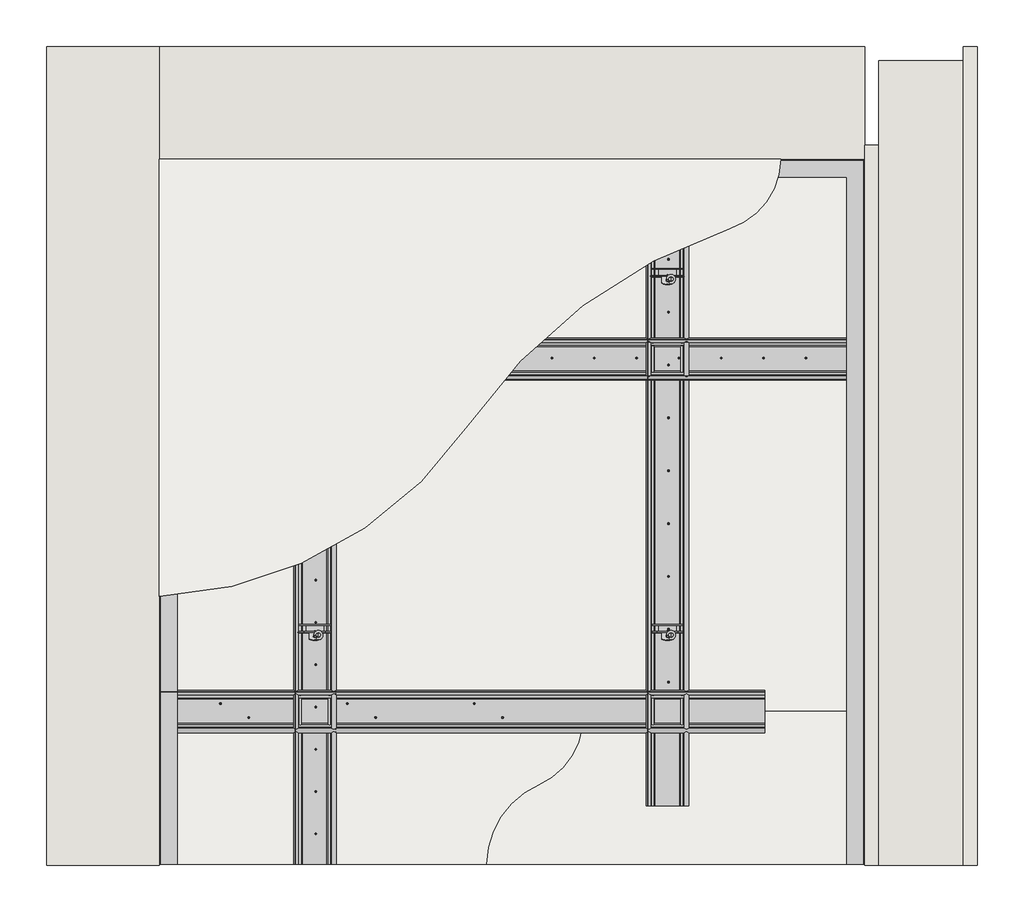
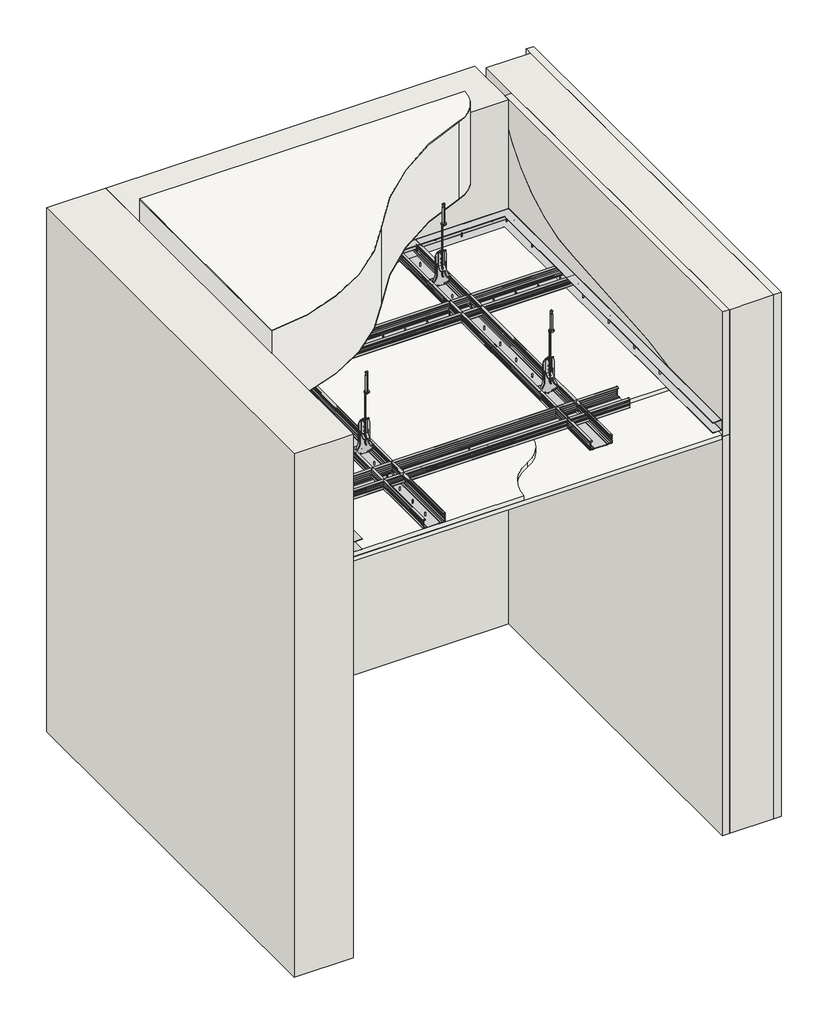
# One storey, incomplete: 106 proxies, 3 walls, 2 coverings, 1 slab.
"""IFC4 building model written with IfcOpenShell, lengths in millimetres."""

from ifc_helpers import new_model, si_unit, point, frame, frame_2d, origin, place, context, project, spatial, polyline, circle_curve, trimmed, segment, composite_curve, outline, extrude, faceted_brep, transform, mapped, element, save
from ifc_brep_helpers import plane_surface, cylinder_surface, revolved_surface, advanced_brep
from components import generic_models_b2d7e38e, generic_models_9a0dee0d, generic_models_a31c8bdf, generic_models_b85798e0, generic_models_5f2788f5, generic_models_cbb1e458, generic_models_cbf350fd, generic_models_0df9e60e

model = new_model("IFC4")

# Units and contexts
model_context = context("Model", 3, world=origin())
ifc_project = project(units=[si_unit("LENGTHUNIT", "METRE", prefix="MILLI")], contexts=[model_context])

# Site, building, storey
site = spatial("IfcSite", under=ifc_project)
building = spatial("IfcBuilding", under=site)
storey = spatial("IfcBuildingStorey", under=building, Name="Уровень 1", Elevation=0.0)

# Proxies
placement = place(None, origin())
generic_models_shape = generic_models_b2d7e38e(model_context)
element("IfcBuildingElementProxy", 1, Name="Дюбель в бетон : Дюбель в бетон", ObjectType="Дюбель в бетон : Дюбель в бетон", at=placement, inside=storey, context=model_context, shape_type="MappedRepresentation", body=[
    mapped(generic_models_shape, transform((8709.8041678, 306.5812197, -156.5537152), x_axis=(0.0, -1.0, 0.0), y_axis=(1.0, 0.0, 0.0), z_axis=(0.0, 0.0, 1.0))),
])
element("IfcBuildingElementProxy", 2, Name="Дюбель в бетон : Дюбель в бетон", ObjectType="Дюбель в бетон : Дюбель в бетон", at=placement, inside=storey, context=model_context, shape_type="MappedRepresentation", body=[
    mapped(generic_models_shape, transform((8709.8041678, 811.5812197, -156.5537152), x_axis=(0.0, -1.0, 0.0), y_axis=(1.0, 0.0, 0.0), z_axis=(0.0, 0.0, 1.0))),
])
element("IfcBuildingElementProxy", 3, Name="Дюбель в бетон : Дюбель в бетон", ObjectType="Дюбель в бетон : Дюбель в бетон", at=placement, inside=storey, context=model_context, shape_type="MappedRepresentation", body=[
    mapped(generic_models_shape, transform((8209.8041678, 306.5812197, -156.5537152), x_axis=(0.0, -1.0, 0.0), y_axis=(1.0, 0.0, 0.0), z_axis=(0.0, 0.0, 1.0))),
])
element("IfcBuildingElementProxy", 4, Name="Дюбель в бетон : Дюбель в бетон", ObjectType="Дюбель в бетон : Дюбель в бетон", at=placement, inside=storey, context=model_context, shape_type="MappedRepresentation", body=[
    mapped(generic_models_shape, transform((8209.8041678, 811.5812197, -156.5537152), x_axis=(0.0, -1.0, 0.0), y_axis=(1.0, 0.0, 0.0), z_axis=(0.0, 0.0, 1.0))),
])
element("IfcBuildingElementProxy", 5, Name="Дюбель в бетон : Дюбель в бетон", ObjectType="Дюбель в бетон : Дюбель в бетон", at=placement, inside=storey, context=model_context, shape_type="MappedRepresentation", body=[
    mapped(generic_models_shape, transform((7985.3446892, -3.5447657, -324.751913), x_axis=(0.0, 1.0, 0.0), y_axis=(0.0, 0.0, -1.0), z_axis=(-1.0, 0.0, 0.0))),
])
element("IfcBuildingElementProxy", 6, Name="Дюбель в бетон : Дюбель в бетон", ObjectType="Дюбель в бетон : Дюбель в бетон", at=placement, inside=storey, context=model_context, shape_type="MappedRepresentation", body=[
    mapped(generic_models_shape, transform((7985.3446892, 146.4552343, -324.751913), x_axis=(0.0, 1.0, 0.0), y_axis=(0.0, 0.0, -1.0), z_axis=(-1.0, 0.0, 0.0))),
])
element("IfcBuildingElementProxy", 7, Name="Дюбель в бетон : Дюбель в бетон", ObjectType="Дюбель в бетон : Дюбель в бетон", at=placement, inside=storey, context=model_context, shape_type="MappedRepresentation", body=[
    mapped(generic_models_shape, transform((7985.3446892, 296.4552343, -324.751913), x_axis=(0.0, 1.0, 0.0), y_axis=(0.0, 0.0, -1.0), z_axis=(-1.0, 0.0, 0.0))),
])
element("IfcBuildingElementProxy", 8, Name="Дюбель в бетон : Дюбель в бетон", ObjectType="Дюбель в бетон : Дюбель в бетон", at=placement, inside=storey, context=model_context, shape_type="MappedRepresentation", body=[
    mapped(generic_models_shape, transform((7985.3446892, 446.4552343, -324.751913), x_axis=(0.0, 1.0, 0.0), y_axis=(0.0, 0.0, -1.0), z_axis=(-1.0, 0.0, 0.0))),
])
element("IfcBuildingElementProxy", 9, Name="Дюбель в бетон : Дюбель в бетон", ObjectType="Дюбель в бетон : Дюбель в бетон", at=placement, inside=storey, context=model_context, shape_type="MappedRepresentation", body=[
    mapped(generic_models_shape, transform((7985.3446892, 596.4552343, -324.751913), x_axis=(0.0, 1.0, 0.0), y_axis=(0.0, 0.0, -1.0), z_axis=(-1.0, 0.0, 0.0))),
])
element("IfcBuildingElementProxy", 10, Name="Дюбель в бетон : Дюбель в бетон", ObjectType="Дюбель в бетон : Дюбель в бетон", at=placement, inside=storey, context=model_context, shape_type="MappedRepresentation", body=[
    mapped(generic_models_shape, transform((7985.3446892, 746.4552343, -324.751913), x_axis=(0.0, 1.0, 0.0), y_axis=(0.0, 0.0, -1.0), z_axis=(-1.0, 0.0, 0.0))),
])
element("IfcBuildingElementProxy", 11, Name="Дюбель в бетон : Дюбель в бетон", ObjectType="Дюбель в бетон : Дюбель в бетон", at=placement, inside=storey, context=model_context, shape_type="MappedRepresentation", body=[
    mapped(generic_models_shape, transform((7985.3446892, 896.4552343, -324.751913), x_axis=(0.0, 1.0, 0.0), y_axis=(0.0, 0.0, -1.0), z_axis=(-1.0, 0.0, 0.0))),
])
element("IfcBuildingElementProxy", 12, Name="Дюбель в бетон : Дюбель в бетон", ObjectType="Дюбель в бетон : Дюбель в бетон", at=placement, inside=storey, context=model_context, shape_type="MappedRepresentation", body=[
    mapped(generic_models_shape, transform((8014.3446892, 980.4552343, -325.4208591), x_axis=(1.0, 0.0, 0.0), y_axis=(0.0, 0.0, -1.0), z_axis=(0.0, 1.0, 0.0))),
])
element("IfcBuildingElementProxy", 13, Name="Дюбель в бетон : Дюбель в бетон", ObjectType="Дюбель в бетон : Дюбель в бетон", at=placement, inside=storey, context=model_context, shape_type="MappedRepresentation", body=[
    mapped(generic_models_shape, transform((8168.5113559, 980.4552343, -325.4208591), x_axis=(1.0, 0.0, 0.0), y_axis=(0.0, 0.0, -1.0), z_axis=(0.0, 1.0, 0.0))),
])
element("IfcBuildingElementProxy", 14, Name="Дюбель в бетон : Дюбель в бетон", ObjectType="Дюбель в бетон : Дюбель в бетон", at=placement, inside=storey, context=model_context, shape_type="MappedRepresentation", body=[
    mapped(generic_models_shape, transform((8322.6780226, 980.4552343, -325.4208591), x_axis=(1.0, 0.0, 0.0), y_axis=(0.0, 0.0, -1.0), z_axis=(0.0, 1.0, 0.0))),
])
element("IfcBuildingElementProxy", 15, Name="Дюбель в бетон : Дюбель в бетон", ObjectType="Дюбель в бетон : Дюбель в бетон", at=placement, inside=storey, context=model_context, shape_type="MappedRepresentation", body=[
    mapped(generic_models_shape, transform((8476.8446892, 980.4552343, -325.4208591), x_axis=(1.0, 0.0, 0.0), y_axis=(0.0, 0.0, -1.0), z_axis=(0.0, 1.0, 0.0))),
])
element("IfcBuildingElementProxy", 16, Name="Дюбель в бетон : Дюбель в бетон", ObjectType="Дюбель в бетон : Дюбель в бетон", at=placement, inside=storey, context=model_context, shape_type="MappedRepresentation", body=[
    mapped(generic_models_shape, transform((8631.0113559, 980.4552343, -325.4208591), x_axis=(1.0, 0.0, 0.0), y_axis=(0.0, 0.0, -1.0), z_axis=(0.0, 1.0, 0.0))),
])
element("IfcBuildingElementProxy", 17, Name="Дюбель в бетон : Дюбель в бетон", ObjectType="Дюбель в бетон : Дюбель в бетон", at=placement, inside=storey, context=model_context, shape_type="MappedRepresentation", body=[
    mapped(generic_models_shape, transform((8785.1780226, 980.4552343, -325.4208591), x_axis=(1.0, 0.0, 0.0), y_axis=(0.0, 0.0, -1.0), z_axis=(0.0, 1.0, 0.0))),
])
element("IfcBuildingElementProxy", 18, Name="Дюбель в бетон : Дюбель в бетон", ObjectType="Дюбель в бетон : Дюбель в бетон", at=placement, inside=storey, context=model_context, shape_type="MappedRepresentation", body=[
    mapped(generic_models_shape, transform((8939.3446892, 980.4552343, -325.4208591), x_axis=(1.0, 0.0, 0.0), y_axis=(0.0, 0.0, -1.0), z_axis=(0.0, 1.0, 0.0))),
])
element("IfcBuildingElementProxy", 19, Name="Дюбель в бетон : Дюбель в бетон", ObjectType="Дюбель в бетон : Дюбель в бетон", at=placement, inside=storey, context=model_context, shape_type="MappedRepresentation", body=[
    mapped(generic_models_shape, transform((8983.3446892, 950.0, -325.018471), x_axis=(0.0, -1.0, 0.0), y_axis=(0.0, 0.0, -1.0), z_axis=(1.0, 0.0, 0.0))),
])
element("IfcBuildingElementProxy", 20, Name="Дюбель в бетон : Дюбель в бетон", ObjectType="Дюбель в бетон : Дюбель в бетон", at=placement, inside=storey, context=model_context, shape_type="MappedRepresentation", body=[
    mapped(generic_models_shape, transform((8983.3446892, 800.0, -325.018471), x_axis=(0.0, -1.0, 0.0), y_axis=(0.0, 0.0, -1.0), z_axis=(1.0, 0.0, 0.0))),
])
element("IfcBuildingElementProxy", 21, Name="Дюбель в бетон : Дюбель в бетон", ObjectType="Дюбель в бетон : Дюбель в бетон", at=placement, inside=storey, context=model_context, shape_type="MappedRepresentation", body=[
    mapped(generic_models_shape, transform((8983.3446892, 650.0, -325.018471), x_axis=(0.0, -1.0, 0.0), y_axis=(0.0, 0.0, -1.0), z_axis=(1.0, 0.0, 0.0))),
])
element("IfcBuildingElementProxy", 22, Name="Дюбель в бетон : Дюбель в бетон", ObjectType="Дюбель в бетон : Дюбель в бетон", at=placement, inside=storey, context=model_context, shape_type="MappedRepresentation", body=[
    mapped(generic_models_shape, transform((8983.3446892, 500.0, -325.018471), x_axis=(0.0, -1.0, 0.0), y_axis=(0.0, 0.0, -1.0), z_axis=(1.0, 0.0, 0.0))),
])
element("IfcBuildingElementProxy", 23, Name="Дюбель в бетон : Дюбель в бетон", ObjectType="Дюбель в бетон : Дюбель в бетон", at=placement, inside=storey, context=model_context, shape_type="MappedRepresentation", body=[
    mapped(generic_models_shape, transform((8983.3446892, 350.0, -325.018471), x_axis=(0.0, -1.0, 0.0), y_axis=(0.0, 0.0, -1.0), z_axis=(1.0, 0.0, 0.0))),
])
element("IfcBuildingElementProxy", 24, Name="Дюбель в бетон : Дюбель в бетон", ObjectType="Дюбель в бетон : Дюбель в бетон", at=placement, inside=storey, context=model_context, shape_type="MappedRepresentation", body=[
    mapped(generic_models_shape, transform((8983.3446892, 200.0, -325.018471), x_axis=(0.0, -1.0, 0.0), y_axis=(0.0, 0.0, -1.0), z_axis=(1.0, 0.0, 0.0))),
])
element("IfcBuildingElementProxy", 25, Name="Дюбель в бетон : Дюбель в бетон", ObjectType="Дюбель в бетон : Дюбель в бетон", at=placement, inside=storey, context=model_context, shape_type="MappedRepresentation", body=[
    mapped(generic_models_shape, transform((8983.3446892, 50.0, -325.018471), x_axis=(0.0, -1.0, 0.0), y_axis=(0.0, 0.0, -1.0), z_axis=(1.0, 0.0, 0.0))),
])
generic_models_2_shape = generic_models_9a0dee0d(model_context)
element("IfcBuildingElementProxy", 26, Name="Винт самонарезающийся : Винт самонарезающийся", ObjectType="Винт самонарезающийся : Винт самонарезающийся", at=placement, inside=storey, context=model_context, shape_type="MappedRepresentation", body=[
    mapped(generic_models_2_shape, transform((8471.043806, 189.4989085, -352.576), x_axis=(-1.0, 0.0, 0.0), y_axis=(0.0, -1.0, 0.0), z_axis=(0.0, 0.0, 1.0))),
])
element("IfcBuildingElementProxy", 27, Name="Винт самонарезающийся : Винт самонарезающийся", ObjectType="Винт самонарезающийся : Винт самонарезающийся", at=placement, inside=storey, context=model_context, shape_type="MappedRepresentation", body=[
    mapped(generic_models_2_shape, transform((8430.843806, 209.2989085, -352.576), x_axis=(-1.0, 0.0, 0.0), y_axis=(0.0, -1.0, 0.0), z_axis=(0.0, 0.0, 1.0))),
])
element("IfcBuildingElementProxy", 28, Name="Винт самонарезающийся : Винт самонарезающийся", ObjectType="Винт самонарезающийся : Винт самонарезающийся", at=placement, inside=storey, context=model_context, shape_type="MappedRepresentation", body=[
    mapped(generic_models_2_shape, transform((8291.043806, 189.4989085, -352.576), x_axis=(-1.0, 0.0, 0.0), y_axis=(0.0, -1.0, 0.0), z_axis=(0.0, 0.0, 1.0))),
])
element("IfcBuildingElementProxy", 29, Name="Винт самонарезающийся : Винт самонарезающийся", ObjectType="Винт самонарезающийся : Винт самонарезающийся", at=placement, inside=storey, context=model_context, shape_type="MappedRepresentation", body=[
    mapped(generic_models_2_shape, transform((8250.843806, 209.2989085, -352.576), x_axis=(-1.0, 0.0, 0.0), y_axis=(0.0, -1.0, 0.0), z_axis=(0.0, 0.0, 1.0))),
])
element("IfcBuildingElementProxy", 30, Name="Винт самонарезающийся : Винт самонарезающийся", ObjectType="Винт самонарезающийся : Винт самонарезающийся", at=placement, inside=storey, context=model_context, shape_type="MappedRepresentation", body=[
    mapped(generic_models_2_shape, transform((8111.043806, 189.4989085, -352.576), x_axis=(-1.0, 0.0, 0.0), y_axis=(0.0, -1.0, 0.0), z_axis=(0.0, 0.0, 1.0))),
])
element("IfcBuildingElementProxy", 31, Name="Винт самонарезающийся : Винт самонарезающийся", ObjectType="Винт самонарезающийся : Винт самонарезающийся", at=placement, inside=storey, context=model_context, shape_type="MappedRepresentation", body=[
    mapped(generic_models_2_shape, transform((8070.843806, 209.2989085, -352.576), x_axis=(-1.0, 0.0, 0.0), y_axis=(0.0, -1.0, 0.0), z_axis=(0.0, 0.0, 1.0))),
])
element("IfcBuildingElementProxy", 32, Name="Винт самонарезающийся : Винт самонарезающийся", ObjectType="Винт самонарезающийся : Винт самонарезающийся", at=placement, inside=storey, context=model_context, shape_type="MappedRepresentation", body=[
    mapped(generic_models_2_shape, transform((8706.243806, 239.6989085, -352.576), x_axis=(-1.0, 0.0, 0.0), y_axis=(0.0, -1.0, 0.0), z_axis=(0.0, 0.0, 1.0))),
])
element("IfcBuildingElementProxy", 33, Name="Винт самонарезающийся : Винт самонарезающийся", ObjectType="Винт самонарезающийся : Винт самонарезающийся", at=placement, inside=storey, context=model_context, shape_type="MappedRepresentation", body=[
    mapped(generic_models_2_shape, transform((8706.243806, 314.6989085, -352.576), x_axis=(-1.0, 0.0, 0.0), y_axis=(0.0, -1.0, 0.0), z_axis=(0.0, 0.0, 1.0))),
])
element("IfcBuildingElementProxy", 34, Name="Винт самонарезающийся : Винт самонарезающийся", ObjectType="Винт самонарезающийся : Винт самонарезающийся", at=placement, inside=storey, context=model_context, shape_type="MappedRepresentation", body=[
    mapped(generic_models_2_shape, transform((8706.243806, 389.6989085, -352.576), x_axis=(-1.0, 0.0, 0.0), y_axis=(0.0, -1.0, 0.0), z_axis=(0.0, 0.0, 1.0))),
])
element("IfcBuildingElementProxy", 35, Name="Винт самонарезающийся : Винт самонарезающийся", ObjectType="Винт самонарезающийся : Винт самонарезающийся", at=placement, inside=storey, context=model_context, shape_type="MappedRepresentation", body=[
    mapped(generic_models_2_shape, transform((8706.243806, 464.6989085, -352.576), x_axis=(-1.0, 0.0, 0.0), y_axis=(0.0, -1.0, 0.0), z_axis=(0.0, 0.0, 1.0))),
])
element("IfcBuildingElementProxy", 36, Name="Винт самонарезающийся : Винт самонарезающийся", ObjectType="Винт самонарезающийся : Винт самонарезающийся", at=placement, inside=storey, context=model_context, shape_type="MappedRepresentation", body=[
    mapped(generic_models_2_shape, transform((8706.243806, 539.6989085, -352.576), x_axis=(-1.0, 0.0, 0.0), y_axis=(0.0, -1.0, 0.0), z_axis=(0.0, 0.0, 1.0))),
])
element("IfcBuildingElementProxy", 37, Name="Винт самонарезающийся : Винт самонарезающийся", ObjectType="Винт самонарезающийся : Винт самонарезающийся", at=placement, inside=storey, context=model_context, shape_type="MappedRepresentation", body=[
    mapped(generic_models_2_shape, transform((8706.243806, 614.6989085, -352.576), x_axis=(-1.0, 0.0, 0.0), y_axis=(0.0, -1.0, 0.0), z_axis=(0.0, 0.0, 1.0))),
])
element("IfcBuildingElementProxy", 38, Name="Винт самонарезающийся : Винт самонарезающийся", ObjectType="Винт самонарезающийся : Винт самонарезающийся", at=placement, inside=storey, context=model_context, shape_type="MappedRepresentation", body=[
    mapped(generic_models_2_shape, transform((8706.243806, 689.6989085, -352.576), x_axis=(-1.0, 0.0, 0.0), y_axis=(0.0, -1.0, 0.0), z_axis=(0.0, 0.0, 1.0))),
])
element("IfcBuildingElementProxy", 39, Name="Винт самонарезающийся : Винт самонарезающийся", ObjectType="Винт самонарезающийся : Винт самонарезающийся", at=placement, inside=storey, context=model_context, shape_type="MappedRepresentation", body=[
    mapped(generic_models_2_shape, transform((8706.243806, 764.6989085, -352.576), x_axis=(-1.0, 0.0, 0.0), y_axis=(0.0, -1.0, 0.0), z_axis=(0.0, 0.0, 1.0))),
])
element("IfcBuildingElementProxy", 40, Name="Винт самонарезающийся : Винт самонарезающийся", ObjectType="Винт самонарезающийся : Винт самонарезающийся", at=placement, inside=storey, context=model_context, shape_type="MappedRepresentation", body=[
    mapped(generic_models_2_shape, transform((8706.243806, 839.6989085, -352.576), x_axis=(-1.0, 0.0, 0.0), y_axis=(0.0, -1.0, 0.0), z_axis=(0.0, 0.0, 1.0))),
])
element("IfcBuildingElementProxy", 41, Name="Винт самонарезающийся : Винт самонарезающийся", ObjectType="Винт самонарезающийся : Винт самонарезающийся", at=placement, inside=storey, context=model_context, shape_type="MappedRepresentation", body=[
    mapped(generic_models_2_shape, transform((8706.243806, 914.6989085, -352.576), x_axis=(-1.0, 0.0, 0.0), y_axis=(0.0, -1.0, 0.0), z_axis=(0.0, 0.0, 1.0))),
])
element("IfcBuildingElementProxy", 42, Name="Винт самонарезающийся : Винт самонарезающийся", ObjectType="Винт самонарезающийся : Винт самонарезающийся", at=placement, inside=storey, context=model_context, shape_type="MappedRepresentation", body=[
    mapped(generic_models_2_shape, transform((8206.043806, 24.4989085, -352.576), x_axis=(-1.0, 0.0, 0.0), y_axis=(0.0, -1.0, 0.0), z_axis=(0.0, 0.0, 1.0))),
])
element("IfcBuildingElementProxy", 43, Name="Винт самонарезающийся : Винт самонарезающийся", ObjectType="Винт самонарезающийся : Винт самонарезающийся", at=placement, inside=storey, context=model_context, shape_type="MappedRepresentation", body=[
    mapped(generic_models_2_shape, transform((8206.043806, 84.4989085, -352.576), x_axis=(-1.0, 0.0, 0.0), y_axis=(0.0, -1.0, 0.0), z_axis=(0.0, 0.0, 1.0))),
])
element("IfcBuildingElementProxy", 44, Name="Винт самонарезающийся : Винт самонарезающийся", ObjectType="Винт самонарезающийся : Винт самонарезающийся", at=placement, inside=storey, context=model_context, shape_type="MappedRepresentation", body=[
    mapped(generic_models_2_shape, transform((8206.043806, 144.4989085, -352.576), x_axis=(-1.0, 0.0, 0.0), y_axis=(0.0, -1.0, 0.0), z_axis=(0.0, 0.0, 1.0))),
])
element("IfcBuildingElementProxy", 45, Name="Винт самонарезающийся : Винт самонарезающийся", ObjectType="Винт самонарезающийся : Винт самонарезающийся", at=placement, inside=storey, context=model_context, shape_type="MappedRepresentation", body=[
    mapped(generic_models_2_shape, transform((8206.043806, 204.4989085, -352.576), x_axis=(-1.0, 0.0, 0.0), y_axis=(0.0, -1.0, 0.0), z_axis=(0.0, 0.0, 1.0))),
])
element("IfcBuildingElementProxy", 46, Name="Винт самонарезающийся : Винт самонарезающийся", ObjectType="Винт самонарезающийся : Винт самонарезающийся", at=placement, inside=storey, context=model_context, shape_type="MappedRepresentation", body=[
    mapped(generic_models_2_shape, transform((8206.043806, 264.4989085, -352.576), x_axis=(-1.0, 0.0, 0.0), y_axis=(0.0, -1.0, 0.0), z_axis=(0.0, 0.0, 1.0))),
])
element("IfcBuildingElementProxy", 47, Name="Винт самонарезающийся : Винт самонарезающийся", ObjectType="Винт самонарезающийся : Винт самонарезающийся", at=placement, inside=storey, context=model_context, shape_type="MappedRepresentation", body=[
    mapped(generic_models_2_shape, transform((8206.043806, 324.4989085, -352.576), x_axis=(-1.0, 0.0, 0.0), y_axis=(0.0, -1.0, 0.0), z_axis=(0.0, 0.0, 1.0))),
])
element("IfcBuildingElementProxy", 48, Name="Винт самонарезающийся : Винт самонарезающийся", ObjectType="Винт самонарезающийся : Винт самонарезающийся", at=placement, inside=storey, context=model_context, shape_type="MappedRepresentation", body=[
    mapped(generic_models_2_shape, transform((8206.043806, 384.4989085, -352.576), x_axis=(-1.0, 0.0, 0.0), y_axis=(0.0, -1.0, 0.0), z_axis=(0.0, 0.0, 1.0))),
])
element("IfcBuildingElementProxy", 49, Name="Винт самонарезающийся : Винт самонарезающийся", ObjectType="Винт самонарезающийся : Винт самонарезающийся", at=placement, inside=storey, context=model_context, shape_type="MappedRepresentation", body=[
    mapped(generic_models_2_shape, transform((8206.043806, 444.4989085, -352.576), x_axis=(-1.0, 0.0, 0.0), y_axis=(0.0, -1.0, 0.0), z_axis=(0.0, 0.0, 1.0))),
])
element("IfcBuildingElementProxy", 50, Name="Винт самонарезающийся : Винт самонарезающийся", ObjectType="Винт самонарезающийся : Винт самонарезающийся", at=placement, inside=storey, context=model_context, shape_type="MappedRepresentation", body=[
    mapped(generic_models_2_shape, transform((8206.043806, 504.4989085, -352.576), x_axis=(-1.0, 0.0, 0.0), y_axis=(0.0, -1.0, 0.0), z_axis=(0.0, 0.0, 1.0))),
])
element("IfcBuildingElementProxy", 51, Name="Винт самонарезающийся : Винт самонарезающийся", ObjectType="Винт самонарезающийся : Винт самонарезающийся", at=placement, inside=storey, context=model_context, shape_type="MappedRepresentation", body=[
    mapped(generic_models_2_shape, transform((8206.043806, 564.4989085, -352.576), x_axis=(-1.0, 0.0, 0.0), y_axis=(0.0, -1.0, 0.0), z_axis=(0.0, 0.0, 1.0))),
])
element("IfcBuildingElementProxy", 52, Name="Винт самонарезающийся : Винт самонарезающийся", ObjectType="Винт самонарезающийся : Винт самонарезающийся", at=placement, inside=storey, context=model_context, shape_type="MappedRepresentation", body=[
    mapped(generic_models_2_shape, transform((8206.043806, 624.4989085, -352.576), x_axis=(-1.0, 0.0, 0.0), y_axis=(0.0, -1.0, 0.0), z_axis=(0.0, 0.0, 1.0))),
])
element("IfcBuildingElementProxy", 53, Name="Винт самонарезающийся : Винт самонарезающийся", ObjectType="Винт самонарезающийся : Винт самонарезающийся", at=placement, inside=storey, context=model_context, shape_type="MappedRepresentation", body=[
    mapped(generic_models_2_shape, transform((8206.043806, 684.4989085, -352.576), x_axis=(-1.0, 0.0, 0.0), y_axis=(0.0, -1.0, 0.0), z_axis=(0.0, 0.0, 1.0))),
])
element("IfcBuildingElementProxy", 54, Name="Винт самонарезающийся : Винт самонарезающийся", ObjectType="Винт самонарезающийся : Винт самонарезающийся", at=placement, inside=storey, context=model_context, shape_type="MappedRepresentation", body=[
    mapped(generic_models_2_shape, transform((8206.043806, 744.4989085, -352.576), x_axis=(-1.0, 0.0, 0.0), y_axis=(0.0, -1.0, 0.0), z_axis=(0.0, 0.0, 1.0))),
])
element("IfcBuildingElementProxy", 55, Name="Винт самонарезающийся : Винт самонарезающийся", ObjectType="Винт самонарезающийся : Винт самонарезающийся", at=placement, inside=storey, context=model_context, shape_type="MappedRepresentation", body=[
    mapped(generic_models_2_shape, transform((8206.043806, 804.4989085, -352.576), x_axis=(-1.0, 0.0, 0.0), y_axis=(0.0, -1.0, 0.0), z_axis=(0.0, 0.0, 1.0))),
])
element("IfcBuildingElementProxy", 56, Name="Винт самонарезающийся : Винт самонарезающийся", ObjectType="Винт самонарезающийся : Винт самонарезающийся", at=placement, inside=storey, context=model_context, shape_type="MappedRepresentation", body=[
    mapped(generic_models_2_shape, transform((8206.043806, 864.4989085, -352.576), x_axis=(-1.0, 0.0, 0.0), y_axis=(0.0, -1.0, 0.0), z_axis=(0.0, 0.0, 1.0))),
])
element("IfcBuildingElementProxy", 57, Name="Винт самонарезающийся : Винт самонарезающийся", ObjectType="Винт самонарезающийся : Винт самонарезающийся", at=placement, inside=storey, context=model_context, shape_type="MappedRepresentation", body=[
    mapped(generic_models_2_shape, transform((8206.043806, 924.4989085, -352.576), x_axis=(-1.0, 0.0, 0.0), y_axis=(0.0, -1.0, 0.0), z_axis=(0.0, 0.0, 1.0))),
])
element("IfcBuildingElementProxy", 58, Name="Винт самонарезающийся : Винт самонарезающийся", ObjectType="Винт самонарезающийся : Винт самонарезающийся", at=placement, inside=storey, context=model_context, shape_type="MappedRepresentation", body=[
    mapped(generic_models_2_shape, transform((8961.043806, 699.4989085, -352.576), x_axis=(-1.0, 0.0, 0.0), y_axis=(0.0, -1.0, 0.0), z_axis=(0.0, 0.0, 1.0))),
])
element("IfcBuildingElementProxy", 59, Name="Винт самонарезающийся : Винт самонарезающийся", ObjectType="Винт самонарезающийся : Винт самонарезающийся", at=placement, inside=storey, context=model_context, shape_type="MappedRepresentation", body=[
    mapped(generic_models_2_shape, transform((8901.043806, 699.4989085, -352.576), x_axis=(-1.0, 0.0, 0.0), y_axis=(0.0, -1.0, 0.0), z_axis=(0.0, 0.0, 1.0))),
])
element("IfcBuildingElementProxy", 60, Name="Винт самонарезающийся : Винт самонарезающийся", ObjectType="Винт самонарезающийся : Винт самонарезающийся", at=placement, inside=storey, context=model_context, shape_type="MappedRepresentation", body=[
    mapped(generic_models_2_shape, transform((8841.043806, 699.4989085, -352.576), x_axis=(-1.0, 0.0, 0.0), y_axis=(0.0, -1.0, 0.0), z_axis=(0.0, 0.0, 1.0))),
])
element("IfcBuildingElementProxy", 61, Name="Винт самонарезающийся : Винт самонарезающийся", ObjectType="Винт самонарезающийся : Винт самонарезающийся", at=placement, inside=storey, context=model_context, shape_type="MappedRepresentation", body=[
    mapped(generic_models_2_shape, transform((8781.043806, 699.4989085, -352.576), x_axis=(-1.0, 0.0, 0.0), y_axis=(0.0, -1.0, 0.0), z_axis=(0.0, 0.0, 1.0))),
])
element("IfcBuildingElementProxy", 62, Name="Винт самонарезающийся : Винт самонарезающийся", ObjectType="Винт самонарезающийся : Винт самонарезающийся", at=placement, inside=storey, context=model_context, shape_type="MappedRepresentation", body=[
    mapped(generic_models_2_shape, transform((8721.043806, 699.4989085, -352.576), x_axis=(-1.0, 0.0, 0.0), y_axis=(0.0, -1.0, 0.0), z_axis=(0.0, 0.0, 1.0))),
])
element("IfcBuildingElementProxy", 63, Name="Винт самонарезающийся : Винт самонарезающийся", ObjectType="Винт самонарезающийся : Винт самонарезающийся", at=placement, inside=storey, context=model_context, shape_type="MappedRepresentation", body=[
    mapped(generic_models_2_shape, transform((8661.043806, 699.4989085, -352.576), x_axis=(-1.0, 0.0, 0.0), y_axis=(0.0, -1.0, 0.0), z_axis=(0.0, 0.0, 1.0))),
])
element("IfcBuildingElementProxy", 64, Name="Винт самонарезающийся : Винт самонарезающийся", ObjectType="Винт самонарезающийся : Винт самонарезающийся", at=placement, inside=storey, context=model_context, shape_type="MappedRepresentation", body=[
    mapped(generic_models_2_shape, transform((8601.043806, 699.4989085, -352.576), x_axis=(-1.0, 0.0, 0.0), y_axis=(0.0, -1.0, 0.0), z_axis=(0.0, 0.0, 1.0))),
])
element("IfcBuildingElementProxy", 65, Name="Винт самонарезающийся : Винт самонарезающийся", ObjectType="Винт самонарезающийся : Винт самонарезающийся", at=placement, inside=storey, context=model_context, shape_type="MappedRepresentation", body=[
    mapped(generic_models_2_shape, transform((8541.043806, 699.4989085, -352.576), x_axis=(-1.0, 0.0, 0.0), y_axis=(0.0, -1.0, 0.0), z_axis=(0.0, 0.0, 1.0))),
])
element("IfcBuildingElementProxy", 66, Name="Винт самонарезающийся : Винт самонарезающийся", ObjectType="Винт самонарезающийся : Винт самонарезающийся", at=placement, inside=storey, context=model_context, shape_type="MappedRepresentation", body=[
    mapped(generic_models_2_shape, transform((8481.043806, 699.4989085, -352.576), x_axis=(-1.0, 0.0, 0.0), y_axis=(0.0, -1.0, 0.0), z_axis=(0.0, 0.0, 1.0))),
])
element("IfcBuildingElementProxy", 67, Name="Винт самонарезающийся : Винт самонарезающийся", ObjectType="Винт самонарезающийся : Винт самонарезающийся", at=placement, inside=storey, context=model_context, shape_type="MappedRepresentation", body=[
    mapped(generic_models_2_shape, transform((8421.043806, 699.4989085, -352.576), x_axis=(-1.0, 0.0, 0.0), y_axis=(0.0, -1.0, 0.0), z_axis=(0.0, 0.0, 1.0))),
])
element("IfcBuildingElementProxy", 68, Name="Винт самонарезающийся : Винт самонарезающийся", ObjectType="Винт самонарезающийся : Винт самонарезающийся", at=placement, inside=storey, context=model_context, shape_type="MappedRepresentation", body=[
    mapped(generic_models_2_shape, transform((8361.043806, 699.4989085, -352.576), x_axis=(-1.0, 0.0, 0.0), y_axis=(0.0, -1.0, 0.0), z_axis=(0.0, 0.0, 1.0))),
])
element("IfcBuildingElementProxy", 69, Name="Винт самонарезающийся : Винт самонарезающийся", ObjectType="Винт самонарезающийся : Винт самонарезающийся", at=placement, inside=storey, context=model_context, shape_type="MappedRepresentation", body=[
    mapped(generic_models_2_shape, transform((8301.043806, 699.4989085, -352.576), x_axis=(-1.0, 0.0, 0.0), y_axis=(0.0, -1.0, 0.0), z_axis=(0.0, 0.0, 1.0))),
])
element("IfcBuildingElementProxy", 70, Name="Винт самонарезающийся : Винт самонарезающийся", ObjectType="Винт самонарезающийся : Винт самонарезающийся", at=placement, inside=storey, context=model_context, shape_type="MappedRepresentation", body=[
    mapped(generic_models_2_shape, transform((8241.043806, 699.4989085, -352.576), x_axis=(-1.0, 0.0, 0.0), y_axis=(0.0, -1.0, 0.0), z_axis=(0.0, 0.0, 1.0))),
])
element("IfcBuildingElementProxy", 71, Name="Винт самонарезающийся : Винт самонарезающийся", ObjectType="Винт самонарезающийся : Винт самонарезающийся", at=placement, inside=storey, context=model_context, shape_type="MappedRepresentation", body=[
    mapped(generic_models_2_shape, transform((8181.043806, 699.4989085, -352.576), x_axis=(-1.0, 0.0, 0.0), y_axis=(0.0, -1.0, 0.0), z_axis=(0.0, 0.0, 1.0))),
])
element("IfcBuildingElementProxy", 72, Name="Винт самонарезающийся : Винт самонарезающийся", ObjectType="Винт самонарезающийся : Винт самонарезающийся", at=placement, inside=storey, context=model_context, shape_type="MappedRepresentation", body=[
    mapped(generic_models_2_shape, transform((8121.043806, 699.4989085, -352.576), x_axis=(-1.0, 0.0, 0.0), y_axis=(0.0, -1.0, 0.0), z_axis=(0.0, 0.0, 1.0))),
])
element("IfcBuildingElementProxy", 73, Name="Винт самонарезающийся : Винт самонарезающийся", ObjectType="Винт самонарезающийся : Винт самонарезающийся", at=placement, inside=storey, context=model_context, shape_type="MappedRepresentation", body=[
    mapped(generic_models_2_shape, transform((8061.043806, 699.4989085, -352.576), x_axis=(-1.0, 0.0, 0.0), y_axis=(0.0, -1.0, 0.0), z_axis=(0.0, 0.0, 1.0))),
])
element("IfcBuildingElementProxy", 74, Name="Винт самонарезающийся : Винт самонарезающийся", ObjectType="Винт самонарезающийся : Винт самонарезающийся", at=placement, inside=storey, context=model_context, shape_type="MappedRepresentation", body=[
    mapped(generic_models_2_shape, transform((8001.043806, 699.4989085, -352.576), x_axis=(-1.0, 0.0, 0.0), y_axis=(0.0, -1.0, 0.0), z_axis=(0.0, 0.0, 1.0))),
])
element("IfcBuildingElementProxy", 75, Name="Винт самонарезающийся : Винт самонарезающийся", ObjectType="Винт самонарезающийся : Винт самонарезающийся", at=placement, inside=storey, context=model_context, shape_type="MappedRepresentation", body=[
    mapped(generic_models_2_shape, transform((7999.0195759, 11.9634581, -352.576), x_axis=(-1.0, 0.0, 0.0), y_axis=(0.0, -1.0, 0.0), z_axis=(0.0, 0.0, 1.0))),
])
element("IfcBuildingElementProxy", 76, Name="Винт самонарезающийся : Винт самонарезающийся", ObjectType="Винт самонарезающийся : Винт самонарезающийся", at=placement, inside=storey, context=model_context, shape_type="MappedRepresentation", body=[
    mapped(generic_models_2_shape, transform((7999.0195759, 131.9634581, -352.576), x_axis=(-1.0, 0.0, 0.0), y_axis=(0.0, -1.0, 0.0), z_axis=(0.0, 0.0, 1.0))),
])
element("IfcBuildingElementProxy", 77, Name="Винт самонарезающийся : Винт самонарезающийся", ObjectType="Винт самонарезающийся : Винт самонарезающийся", at=placement, inside=storey, context=model_context, shape_type="MappedRepresentation", body=[
    mapped(generic_models_2_shape, transform((7999.0195759, 251.9634581, -352.576), x_axis=(-1.0, 0.0, 0.0), y_axis=(0.0, -1.0, 0.0), z_axis=(0.0, 0.0, 1.0))),
])
element("IfcBuildingElementProxy", 78, Name="Винт самонарезающийся : Винт самонарезающийся", ObjectType="Винт самонарезающийся : Винт самонарезающийся", at=placement, inside=storey, context=model_context, shape_type="MappedRepresentation", body=[
    mapped(generic_models_2_shape, transform((7999.0195759, 371.9634581, -352.576), x_axis=(-1.0, 0.0, 0.0), y_axis=(0.0, -1.0, 0.0), z_axis=(0.0, 0.0, 1.0))),
])
element("IfcBuildingElementProxy", 79, Name="Винт самонарезающийся : Винт самонарезающийся", ObjectType="Винт самонарезающийся : Винт самонарезающийся", at=placement, inside=storey, context=model_context, shape_type="MappedRepresentation", body=[
    mapped(generic_models_2_shape, transform((7999.0195759, 491.9634581, -352.576), x_axis=(-1.0, 0.0, 0.0), y_axis=(0.0, -1.0, 0.0), z_axis=(0.0, 0.0, 1.0))),
])
element("IfcBuildingElementProxy", 80, Name="Винт самонарезающийся : Винт самонарезающийся", ObjectType="Винт самонарезающийся : Винт самонарезающийся", at=placement, inside=storey, context=model_context, shape_type="MappedRepresentation", body=[
    mapped(generic_models_2_shape, transform((7999.0195759, 611.9634581, -352.576), x_axis=(-1.0, 0.0, 0.0), y_axis=(0.0, -1.0, 0.0), z_axis=(0.0, 0.0, 1.0))),
])
element("IfcBuildingElementProxy", 81, Name="Винт самонарезающийся : Винт самонарезающийся", ObjectType="Винт самонарезающийся : Винт самонарезающийся", at=placement, inside=storey, context=model_context, shape_type="MappedRepresentation", body=[
    mapped(generic_models_2_shape, transform((7999.0195759, 731.9634581, -352.576), x_axis=(-1.0, 0.0, 0.0), y_axis=(0.0, -1.0, 0.0), z_axis=(0.0, 0.0, 1.0))),
])
element("IfcBuildingElementProxy", 82, Name="Винт самонарезающийся : Винт самонарезающийся", ObjectType="Винт самонарезающийся : Винт самонарезающийся", at=placement, inside=storey, context=model_context, shape_type="MappedRepresentation", body=[
    mapped(generic_models_2_shape, transform((7999.0195759, 851.9634581, -352.576), x_axis=(-1.0, 0.0, 0.0), y_axis=(0.0, -1.0, 0.0), z_axis=(0.0, 0.0, 1.0))),
])
element("IfcBuildingElementProxy", 83, Name="Винт самонарезающийся : Винт самонарезающийся", ObjectType="Винт самонарезающийся : Винт самонарезающийся", at=placement, inside=storey, context=model_context, shape_type="MappedRepresentation", body=[
    mapped(generic_models_2_shape, transform((7999.0195759, 971.9634581, -352.576), x_axis=(-1.0, 0.0, 0.0), y_axis=(0.0, -1.0, 0.0), z_axis=(0.0, 0.0, 1.0))),
])
element("IfcBuildingElementProxy", 84, Name="Винт самонарезающийся : Винт самонарезающийся", ObjectType="Винт самонарезающийся : Винт самонарезающийся", at=placement, inside=storey, context=model_context, shape_type="MappedRepresentation", body=[
    mapped(generic_models_2_shape, transform((8120.7383259, 971.9634581, -352.576), x_axis=(-1.0, 0.0, 0.0), y_axis=(0.0, -1.0, 0.0), z_axis=(0.0, 0.0, 1.0))),
])
element("IfcBuildingElementProxy", 85, Name="Винт самонарезающийся : Винт самонарезающийся", ObjectType="Винт самонарезающийся : Винт самонарезающийся", at=placement, inside=storey, context=model_context, shape_type="MappedRepresentation", body=[
    mapped(generic_models_2_shape, transform((8242.4570759, 971.9634581, -352.576), x_axis=(-1.0, 0.0, 0.0), y_axis=(0.0, -1.0, 0.0), z_axis=(0.0, 0.0, 1.0))),
])
element("IfcBuildingElementProxy", 86, Name="Винт самонарезающийся : Винт самонарезающийся", ObjectType="Винт самонарезающийся : Винт самонарезающийся", at=placement, inside=storey, context=model_context, shape_type="MappedRepresentation", body=[
    mapped(generic_models_2_shape, transform((8364.1758259, 971.9634581, -352.576), x_axis=(-1.0, 0.0, 0.0), y_axis=(0.0, -1.0, 0.0), z_axis=(0.0, 0.0, 1.0))),
])
element("IfcBuildingElementProxy", 87, Name="Винт самонарезающийся : Винт самонарезающийся", ObjectType="Винт самонарезающийся : Винт самонарезающийся", at=placement, inside=storey, context=model_context, shape_type="MappedRepresentation", body=[
    mapped(generic_models_2_shape, transform((8485.8945759, 971.9634581, -352.576), x_axis=(-1.0, 0.0, 0.0), y_axis=(0.0, -1.0, 0.0), z_axis=(0.0, 0.0, 1.0))),
])
element("IfcBuildingElementProxy", 88, Name="Винт самонарезающийся : Винт самонарезающийся", ObjectType="Винт самонарезающийся : Винт самонарезающийся", at=placement, inside=storey, context=model_context, shape_type="MappedRepresentation", body=[
    mapped(generic_models_2_shape, transform((8607.6133259, 971.9634581, -352.576), x_axis=(-1.0, 0.0, 0.0), y_axis=(0.0, -1.0, 0.0), z_axis=(0.0, 0.0, 1.0))),
])
element("IfcBuildingElementProxy", 89, Name="Винт самонарезающийся : Винт самонарезающийся", ObjectType="Винт самонарезающийся : Винт самонарезающийся", at=placement, inside=storey, context=model_context, shape_type="MappedRepresentation", body=[
    mapped(generic_models_2_shape, transform((8729.3320759, 971.9634581, -352.576), x_axis=(-1.0, 0.0, 0.0), y_axis=(0.0, -1.0, 0.0), z_axis=(0.0, 0.0, 1.0))),
])
element("IfcBuildingElementProxy", 90, Name="Винт самонарезающийся : Винт самонарезающийся", ObjectType="Винт самонарезающийся : Винт самонарезающийся", at=placement, inside=storey, context=model_context, shape_type="MappedRepresentation", body=[
    mapped(generic_models_2_shape, transform((8851.0508259, 971.9634581, -352.576), x_axis=(-1.0, 0.0, 0.0), y_axis=(0.0, -1.0, 0.0), z_axis=(0.0, 0.0, 1.0))),
])
element("IfcBuildingElementProxy", 91, Name="Винт самонарезающийся : Винт самонарезающийся", ObjectType="Винт самонарезающийся : Винт самонарезающийся", at=placement, inside=storey, context=model_context, shape_type="MappedRepresentation", body=[
    mapped(generic_models_2_shape, transform((8972.7695759, 971.9634581, -352.576), x_axis=(-1.0, 0.0, 0.0), y_axis=(0.0, -1.0, 0.0), z_axis=(0.0, 0.0, 1.0))),
])
element("IfcBuildingElementProxy", 92, Name="Винт самонарезающийся : Винт самонарезающийся", ObjectType="Винт самонарезающийся : Винт самонарезающийся", at=placement, inside=storey, context=model_context, shape_type="MappedRepresentation", body=[
    mapped(generic_models_2_shape, transform((8972.7695759, 851.9634581, -352.576), x_axis=(-1.0, 0.0, 0.0), y_axis=(0.0, -1.0, 0.0), z_axis=(0.0, 0.0, 1.0))),
])
element("IfcBuildingElementProxy", 93, Name="Винт самонарезающийся : Винт самонарезающийся", ObjectType="Винт самонарезающийся : Винт самонарезающийся", at=placement, inside=storey, context=model_context, shape_type="MappedRepresentation", body=[
    mapped(generic_models_2_shape, transform((8972.7695759, 731.9634581, -352.576), x_axis=(-1.0, 0.0, 0.0), y_axis=(0.0, -1.0, 0.0), z_axis=(0.0, 0.0, 1.0))),
])
element("IfcBuildingElementProxy", 94, Name="Винт самонарезающийся : Винт самонарезающийся", ObjectType="Винт самонарезающийся : Винт самонарезающийся", at=placement, inside=storey, context=model_context, shape_type="MappedRepresentation", body=[
    mapped(generic_models_2_shape, transform((8972.7695759, 611.9634581, -352.576), x_axis=(-1.0, 0.0, 0.0), y_axis=(0.0, -1.0, 0.0), z_axis=(0.0, 0.0, 1.0))),
])
element("IfcBuildingElementProxy", 95, Name="Винт самонарезающийся : Винт самонарезающийся", ObjectType="Винт самонарезающийся : Винт самонарезающийся", at=placement, inside=storey, context=model_context, shape_type="MappedRepresentation", body=[
    mapped(generic_models_2_shape, transform((8972.7695759, 491.9634581, -352.576), x_axis=(-1.0, 0.0, 0.0), y_axis=(0.0, -1.0, 0.0), z_axis=(0.0, 0.0, 1.0))),
])
element("IfcBuildingElementProxy", 96, Name="Винт самонарезающийся : Винт самонарезающийся", ObjectType="Винт самонарезающийся : Винт самонарезающийся", at=placement, inside=storey, context=model_context, shape_type="MappedRepresentation", body=[
    mapped(generic_models_2_shape, transform((8972.7695759, 371.9634581, -352.576), x_axis=(-1.0, 0.0, 0.0), y_axis=(0.0, -1.0, 0.0), z_axis=(0.0, 0.0, 1.0))),
])
element("IfcBuildingElementProxy", 97, Name="Винт самонарезающийся : Винт самонарезающийся", ObjectType="Винт самонарезающийся : Винт самонарезающийся", at=placement, inside=storey, context=model_context, shape_type="MappedRepresentation", body=[
    mapped(generic_models_2_shape, transform((8972.7695759, 251.9634581, -352.576), x_axis=(-1.0, 0.0, 0.0), y_axis=(0.0, -1.0, 0.0), z_axis=(0.0, 0.0, 1.0))),
])
generic_models_3_shape = generic_models_a31c8bdf(model_context)
element("IfcBuildingElementProxy", 98, Name="Несущий КНАУФ-профиль ПП 60х27 : Несущий КНАУФ-профиль ПП 60х27", ObjectType="Несущий КНАУФ-профиль ПП 60х27 : Несущий КНАУФ-профиль ПП 60х27", at=placement, inside=storey, context=model_context, shape_type="MappedRepresentation", body=[
    mapped(generic_models_3_shape, transform((8413.385604, 198.0408242, -339.5), x_axis=(-1.0, 0.0, 0.0), y_axis=(0.0, -1.0, 0.0), z_axis=(0.0, 0.0, 1.0))),
])
generic_models_4_shape = generic_models_b85798e0(model_context)
element("IfcBuildingElementProxy", 99, Name="Несущий КНАУФ-профиль ПП 60х27 : Несущий КНАУФ-профиль ПП 60х27", ObjectType="Несущий КНАУФ-профиль ПП 60х27 : Несущий КНАУФ-профиль ПП 60х27", at=placement, inside=storey, context=model_context, shape_type="MappedRepresentation", body=[
    mapped(generic_models_4_shape, transform((8704.7851939, 523.0054631, -339.5), x_axis=(0.0, -1.0, 0.0), y_axis=(1.0, 0.0, 0.0), z_axis=(0.0, 0.0, 1.0))),
])
generic_models_5_shape = generic_models_5f2788f5(model_context)
element("IfcBuildingElementProxy", 100, Name="Анкерный подвес с зажимом для профилей ПП 60x27 : Анкерный подвес с зажимом для профилей ПП 60x27", ObjectType="Анкерный подвес с зажимом для профилей ПП 60x27 : Анкерный подвес с зажимом для профилей ПП 60x27", at=placement, inside=storey, context=model_context, shape_type="MappedRepresentation", body=[
    mapped(generic_models_5_shape, transform((8704.8041678, 311.0288196, -313.540319), x_axis=(1.0, 0.0, 0.0), y_axis=(0.0, 1.0, 0.0), z_axis=(0.0, 0.0, 1.0))),
])
element("IfcBuildingElementProxy", 101, Name="Анкерный подвес с зажимом для профилей ПП 60x27 : Анкерный подвес с зажимом для профилей ПП 60x27", ObjectType="Анкерный подвес с зажимом для профилей ПП 60x27 : Анкерный подвес с зажимом для профилей ПП 60x27", at=placement, inside=storey, context=model_context, shape_type="MappedRepresentation", body=[
    mapped(generic_models_5_shape, transform((8704.8041678, 816.0288196, -313.540319), x_axis=(1.0, 0.0, 0.0), y_axis=(0.0, 1.0, 0.0), z_axis=(0.0, 0.0, 1.0))),
])
element("IfcBuildingElementProxy", 102, Name="Анкерный подвес с зажимом для профилей ПП 60x27 : Анкерный подвес с зажимом для профилей ПП 60x27", ObjectType="Анкерный подвес с зажимом для профилей ПП 60x27 : Анкерный подвес с зажимом для профилей ПП 60x27", at=placement, inside=storey, context=model_context, shape_type="MappedRepresentation", body=[
    mapped(generic_models_5_shape, transform((8204.8041678, 311.0288196, -313.540319), x_axis=(1.0, 0.0, 0.0), y_axis=(0.0, 1.0, 0.0), z_axis=(0.0, 0.0, 1.0))),
])
element("IfcBuildingElementProxy", 103, Name="Анкерный подвес с зажимом для профилей ПП 60x27 : Анкерный подвес с зажимом для профилей ПП 60x27", ObjectType="Анкерный подвес с зажимом для профилей ПП 60x27 : Анкерный подвес с зажимом для профилей ПП 60x27", at=placement, inside=storey, context=model_context, shape_type="MappedRepresentation", body=[
    mapped(generic_models_5_shape, transform((8204.8041678, 816.0288196, -313.540319), x_axis=(1.0, 0.0, 0.0), y_axis=(0.0, 1.0, 0.0), z_axis=(0.0, 0.0, 1.0))),
])
generic_models_6_shape = generic_models_cbb1e458(model_context)
element("IfcBuildingElementProxy", 104, Name="Несущий КНАУФ-профиль ПП 60х27 : Несущий КНАУФ-профиль ПП 60х27", ObjectType="Несущий КНАУФ-профиль ПП 60х27 : Несущий КНАУФ-профиль ПП 60х27", at=placement, inside=storey, context=model_context, shape_type="MappedRepresentation", body=[
    mapped(generic_models_6_shape, transform((8484.3446892, 698.0408242, -339.5), x_axis=(-1.0, 0.0, 0.0), y_axis=(0.0, -1.0, 0.0), z_axis=(0.0, 0.0, 1.0))),
])
generic_models_7_shape = generic_models_cbf350fd(model_context)
element("IfcBuildingElementProxy", 105, Name="Несущий КНАУФ-профиль ПП 60х27 : Несущий КНАУФ-профиль ПП 60х27", ObjectType="Несущий КНАУФ-профиль ПП 60х27 : Несущий КНАУФ-профиль ПП 60х27", at=placement, inside=storey, context=model_context, shape_type="MappedRepresentation", body=[
    mapped(generic_models_7_shape, transform((8204.7851939, 490.7276171, -339.5), x_axis=(0.0, -1.0, 0.0), y_axis=(1.0, 0.0, 0.0), z_axis=(0.0, 0.0, 1.0))),
])
generic_models_8_shape = generic_models_0df9e60e(model_context)
element("IfcBuildingElementProxy", 106, Name="Прямоугольный профиль : Прямоугольный профиль", ObjectType="Прямоугольный профиль : Прямоугольный профиль", at=placement, inside=storey, context=model_context, shape_type="MappedRepresentation", body=[
    mapped(generic_models_8_shape, transform((0.0, 0.0, 0.0), x_axis=(1.0, 0.0, 0.0), y_axis=(0.0, 1.0, 0.0), z_axis=(0.0, 0.0, 1.0))),
])

# Coverings
element("IfcCovering", 107, ObjectType="Гипсокартон 12,5мм", at=placement, inside=storey, context=model_context, shape_type="SweptSolid", body=[
    extrude(outline(polyline([(8984.3446892, 981.4552343), (8984.3446892, 199.2460584), (7984.3446892, 199.2460584), (7984.3446892, 981.4552343), (8984.3446892, 981.4552343)])), frame((0.0, 0.0, -352.0), z_axis=(0.0, 0.0, 1.0), x_axis=(1.0, 0.0, 0.0)), (0.0, 0.0, 1.0), 12.5),
    extrude(outline(composite_curve([segment(polyline([(7984.3446892, 197.2460584), (8584.3446892, 197.2460584)]), True, "CONTINUOUS"), segment(trimmed(circle_curve(frame_2d((8480.5768454, 189.5980655)), 104.0493018), [point((8584.3446892, 197.2460584))], [point((8522.5401202, 94.3859823))], False, "CARTESIAN"), True, "CONTINUOUS"), segment(trimmed(circle_curve(frame_2d((8572.9719358, -20.0406974)), 125.0473233), [point((8522.5401202, 94.3859823))], [point((8447.9335607, -18.5447657))], True, "CARTESIAN"), True, "CONTINUOUS"), segment(polyline([(8447.9335607, -18.5447657), (7984.3446892, -18.5447657), (7984.3446892, 197.2460584)]), True, "CONTINUOUS")], self_intersect=False)), frame((0.0, 0.0, -352.0), z_axis=(0.0, 0.0, 1.0), x_axis=(1.0, 0.0, 0.0)), (0.0, 0.0, 1.0), 12.5),
])
element("IfcCovering", 108, ObjectType="Гипсокартон 12,5мм", at=placement, inside=storey, context=model_context, shape_type="SweptSolid", body=[
    extrude(outline(polyline([(8984.3446892, 981.4552343), (8984.3446892, -18.5447657), (7984.3446892, -18.5447657), (7984.3446892, 981.4552343), (8984.3446892, 981.4552343)])), frame((0.0, 0.0, -365.076), z_axis=(0.0, 0.0, 1.0), x_axis=(1.0, 0.0, 0.0)), (0.0, 0.0, 1.0), 12.5),
])

# Slab
element("IfcSlab", 109, ObjectType="Перекрытие 1", at=placement, inside=storey, context=model_context, shape_type="SweptSolid", body=[
    extrude(outline(composite_curve([segment(polyline([(7984.3446892, 361.4552343), (7984.3446892, 981.4552343), (8865.1746045, 981.4552343)]), True, "CONTINUOUS"), segment(trimmed(circle_curve(frame_2d((8760.380055, 982.6229208)), 104.8010548), [point((8865.1746045, 981.4552343))], [point((8793.3992181, 883.1593799))], False, "CARTESIAN"), True, "CONTINUOUS"), segment(trimmed(circle_curve(frame_2d((9023.6033774, 189.715977)), 730.65567), [point((8793.3992181, 883.1593799))], [point((8421.6545428, 603.8600444))], True, "CARTESIAN"), True, "CONTINUOUS"), segment(trimmed(circle_curve(frame_2d((7959.6054577, 921.7523244)), 560.8429894), [point((8421.6545428, 603.8600444))], [point((7984.3446892, 361.4552343))], False, "CARTESIAN"), True, "CONTINUOUS")], self_intersect=False)), frame((0.0, 0.0, 64.5634635), z_axis=(0.0, 0.0, 1.0), x_axis=(1.0, 0.0, 0.0)), (0.0, 0.0, 1.0), 2.0),
    extrude(outline(composite_curve([segment(polyline([(7984.3446892, 361.4552343), (7984.3446892, 981.4552343), (8865.1746045, 981.4552343)]), True, "CONTINUOUS"), segment(trimmed(circle_curve(frame_2d((8760.380055, 982.6229208)), 104.8010548), [point((8865.1746045, 981.4552343))], [point((8793.3992181, 883.1593799))], False, "CARTESIAN"), True, "CONTINUOUS"), segment(trimmed(circle_curve(frame_2d((9023.6033774, 189.715977)), 730.65567), [point((8793.3992181, 883.1593799))], [point((8421.6545428, 603.8600444))], True, "CARTESIAN"), True, "CONTINUOUS"), segment(trimmed(circle_curve(frame_2d((7959.6054577, 921.7523244)), 560.8429894), [point((8421.6545428, 603.8600444))], [point((7984.3446892, 361.4552343))], False, "CARTESIAN"), True, "CONTINUOUS")], self_intersect=False)), frame((0.0, 0.0, -155.4365365), z_axis=(0.0, 0.0, 1.0), x_axis=(1.0, 0.0, 0.0)), (0.0, 0.0, 1.0), 220.0),
    extrude(outline(composite_curve([segment(trimmed(circle_curve(frame_2d((8760.380055, 982.6229208)), 104.8010548), [point((8865.1746045, 981.4552343))], [point((8793.3992181, 883.1593799))], False, "CARTESIAN"), True, "CONTINUOUS"), segment(trimmed(circle_curve(frame_2d((9023.6033774, 189.715977)), 730.65567), [point((8793.3992181, 883.1593799))], [point((8421.6545428, 603.8600444))], True, "CARTESIAN"), True, "CONTINUOUS"), segment(trimmed(circle_curve(frame_2d((7959.6054577, 921.7523244)), 560.8429894), [point((8421.6545428, 603.8600444))], [point((7984.3446892, 361.4552343))], False, "CARTESIAN"), True, "CONTINUOUS"), segment(polyline([(7984.3446892, 361.4552343), (7984.3446892, 981.4552343), (8865.1746045, 981.4552343)]), True, "CONTINUOUS")], self_intersect=False)), frame((0.0, 0.0, -157.4365365), z_axis=(0.0, 0.0, 1.0), x_axis=(1.0, 0.0, 0.0)), (0.0, 0.0, 1.0), 2.0),
])

# Walls
element("IfcWall", 110, ObjectType="Перегородка", at=placement, inside=storey, context=model_context, shape_type="SolidModel", body=[
    extrude(outline(polyline([(9144.3446892, 1141.4552343), (9144.3446892, -20.0), (9124.3446892, -20.0), (9124.3446892, 1141.4552343), (9144.3446892, 1141.4552343)])), frame((0.0, 0.0, -1500.0), z_axis=(0.0, 0.0, 1.0), x_axis=(1.0, 0.0, 0.0)), (0.0, 0.0, 1.0), 1500.0),
    extrude(outline(polyline([(9004.3446892, 1121.4552343), (9124.3446892, 1121.4552343), (9124.3446892, -20.0), (9004.3446892, -20.0), (9004.3446892, 1121.4552343)])), frame((0.0, 0.0, -1500.0), z_axis=(0.0, 0.0, 1.0), x_axis=(1.0, 0.0, 0.0)), (0.0, 0.0, 1.0), 1500.0),
    advanced_brep(
    [(8984.3446892, 678.4073674, -263.4223147), (9004.3446892, 678.4073674, -263.4223147), (9004.3446892, -20.0, -356.7143051), (8984.3446892, -20.0, -356.7143051), (8984.3446892, 1001.4552343, -49.0300476), (9004.3446892, 1001.4552343, -49.0300476), (9004.3446892, 1001.4552343, 0.0), (9004.3446892, -20.0, 0.0), (8984.3446892, -20.0, 0.0), (8984.3446892, 981.4552343, 0.0), (8984.3446892, 1001.4552343, 0.0)],
    [
        (0, 1),
        (1, 2, circle_curve(frame((9004.3446892, 753.3600321, -3485.4097), z_axis=(1.0, 0.0, 0.0), x_axis=(0.0, -0.023256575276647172, 0.9997295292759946)), 3222.8590744)),
        (2, 3),
        (3, 0, circle_curve(frame((8984.3446892, 753.3600321, -3485.4097), z_axis=(-1.0, 0.0, 0.0), x_axis=(0.0, -0.023256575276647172, 0.9997295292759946)), 3222.8590744)),
        (0, 4, circle_curve(frame((8984.3446892, 669.9555764, 99.894508), z_axis=(1.0, 0.0, 0.0), x_axis=(0.0, 0.9442484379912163, -0.3292337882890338)), 363.4151158)),
        (4, 5),
        (5, 1, circle_curve(frame((9004.3446892, 669.9555764, 99.894508), z_axis=(-1.0, 0.0, 0.0), x_axis=(0.0, 0.9442484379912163, -0.3292337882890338)), 363.4151158)),
        (6, 7),
        (7, 2),
        (5, 6),
        (8, 9),
        (9, 10),
        (10, 4),
        (3, 8),
        (7, 8),
        (6, 10),
    ],
    [
        revolved_surface(polyline([(8984.3446892, 678.407367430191, -263.42231462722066), (9004.3446892, 678.407367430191, -263.42231462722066)]), (8679.5446892, 753.3600321, -3485.4097), (-1.0, 0.0, 0.0)),
        cylinder_surface(frame((8679.5446892, 669.9555764, 99.894508), z_axis=(1.0000000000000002, 0.0, 0.0), x_axis=(0.0, 0.9442484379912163, -0.3292337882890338)), 363.4151158),
        plane_surface(frame((9004.3446892, 1144.6302343, 304.8), z_axis=(1.0, 0.0, 0.0), x_axis=(0.0, -1.0, 0.0))),
        plane_surface(frame((8984.3446892, 1000.0, -1500.0), z_axis=(-1.0, 0.0, 0.0), x_axis=(0.0, -1.0, 0.0))),
        plane_surface(frame((8984.3446892, -20.0, -1500.0), z_axis=(0.0, -1.0, 0.0), x_axis=(1.0, 0.0, 0.0))),
        plane_surface(frame((8984.3446892, -20.0, 0.0), z_axis=(0.0, 0.0, 1.0), x_axis=(1.0, 0.0, 0.0))),
        plane_surface(frame((9124.8565832, 1001.4552343, -1500.0), z_axis=(0.0, 1.0, 0.0), x_axis=(1.0, 0.0, 0.0))),
    ],
    [
        (0, [[1, 2, 3, 4]]),
        (1, [[-1, 5, 6, 7]]),
        (2, [[8, 9, -2, -7, 10]]),
        (3, [[11, 12, 13, -5, -4, 14]]),
        (4, [[15, -14, -3, -9]]),
        (5, [[-8, 16, -12, -11, -15]]),
        (6, [[-16, -10, -6, -13]]),
    ],
),
    advanced_brep(
    [(8984.3446892, 678.4073674, -263.4223147), (9004.3446892, 678.4073674, -263.4223147), (9004.3446892, 1001.4552343, -49.0300476), (8984.3446892, 1001.4552343, -49.0300476), (8984.3446892, -20.0, -356.7143051), (9004.3446892, -20.0, -356.7143051), (9004.3446892, -20.0, -1500.0), (9004.3446892, 1001.4552343, -1500.0), (8984.3446892, 1001.4552343, -1500.0), (8984.3446892, 981.4552343, -1500.0), (8984.3446892, -20.0, -1500.0)],
    [
        (0, 1),
        (1, 2, circle_curve(frame((9004.3446892, 669.9555764, 99.894508), z_axis=(1.0, 0.0, 0.0), x_axis=(0.0, 0.02325657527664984, -0.9997295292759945)), 363.4151158)),
        (2, 3),
        (3, 0, circle_curve(frame((8984.3446892, 669.9555764, 99.894508), z_axis=(-1.0, 0.0, 0.0), x_axis=(0.0, 0.02325657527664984, -0.9997295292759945)), 363.4151158)),
        (0, 4, circle_curve(frame((8984.3446892, 753.3600321, -3485.4097), z_axis=(1.0, 0.0, 0.0), x_axis=(0.0, -0.2872480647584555, 0.9578562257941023)), 3222.8590744)),
        (4, 5),
        (5, 1, circle_curve(frame((9004.3446892, 753.3600321, -3485.4097), z_axis=(-1.0, 0.0, 0.0), x_axis=(0.0, -0.2872480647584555, 0.9578562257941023)), 3222.8590744)),
        (6, 7),
        (7, 2),
        (5, 6),
        (8, 9),
        (9, 10),
        (10, 4),
        (3, 8),
        (6, 10),
        (8, 7),
    ],
    [
        revolved_surface(polyline([(8984.3446892, 678.4073673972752, -263.4223146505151), (9004.3446892, 678.4073673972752, -263.4223146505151)]), (8679.5446892, 669.9555764, 99.894508), (-0.9999999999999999, 0.0, 0.0)),
        cylinder_surface(frame((8679.5446892, 753.3600321, -3485.4097), z_axis=(1.0000000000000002, 0.0, 0.0), x_axis=(0.0, -0.2872480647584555, 0.9578562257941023)), 3222.8590744),
        plane_surface(frame((9004.3446892, 1144.6302343, 304.8), z_axis=(1.0, 0.0, 0.0), x_axis=(0.0, -1.0, 0.0))),
        plane_surface(frame((8984.3446892, 1000.0, -1500.0), z_axis=(-1.0, 0.0, 0.0), x_axis=(0.0, -1.0, 0.0))),
        plane_surface(frame((8984.3446892, 1061.4552343, -1500.0), z_axis=(0.0, 0.0, -1.0), x_axis=(1.0, 0.0, 0.0))),
        plane_surface(frame((8984.3446892, -20.0, -1500.0), z_axis=(0.0, -1.0, 0.0), x_axis=(1.0, 0.0, 0.0))),
        plane_surface(frame((9124.8565832, 1001.4552343, -1500.0), z_axis=(0.0, 1.0, 0.0), x_axis=(1.0, 0.0, 0.0))),
    ],
    [
        (0, [[1, 2, 3, 4]]),
        (1, [[-1, 5, 6, 7]]),
        (2, [[8, 9, -2, -7, 10]]),
        (3, [[11, 12, 13, -5, -4, 14]]),
        (4, [[-8, 15, -12, -11, 16]]),
        (5, [[-15, -10, -6, -13]]),
        (6, [[-16, -14, -3, -9]]),
    ],
),
])
element("IfcWall", 111, ObjectType="Перегородка", at=placement, inside=storey, context=model_context, shape_type="SweptSolid", body=[
    extrude(outline(polyline([(7984.3446892, 1141.4552343), (8984.3446892, 1141.4552343), (8984.3446892, 981.4552343), (7984.3446892, 981.4552343), (7984.3446892, 1141.4552343)])), frame((0.0, 0.0, -1500.0), z_axis=(0.0, 0.0, 1.0), x_axis=(1.0, 0.0, 0.0)), (0.0, 0.0, 1.0), 1500.0),
])
element("IfcWall", 112, ObjectType="Перегородка", at=placement, inside=storey, context=model_context, shape_type="Brep", body=[
    faceted_brep([(7824.3446892, 1141.4552343, -1500.0), (7824.3446892, -20.0, -1500.0), (7824.3446892, -20.0, 0.0), (7824.3446892, 1141.4552343, 0.0), (7984.3446892, 1141.4552343, -1500.0), (7984.3446892, 1141.4552343, 0.0), (7984.3446892, 981.4552343, 0.0), (7984.3446892, -20.0, 0.0), (7984.3446892, -20.0, -1500.0), (7984.3446892, 981.4552343, -1500.0)], [[[0, 1, 2, 3]], [[4, 5, 6, 7, 8, 9]], [[1, 0, 4, 9, 8]], [[2, 1, 8, 7]], [[3, 2, 7, 6, 5]], [[0, 3, 5, 4]]]),
])

save(model, "model.ifc")
